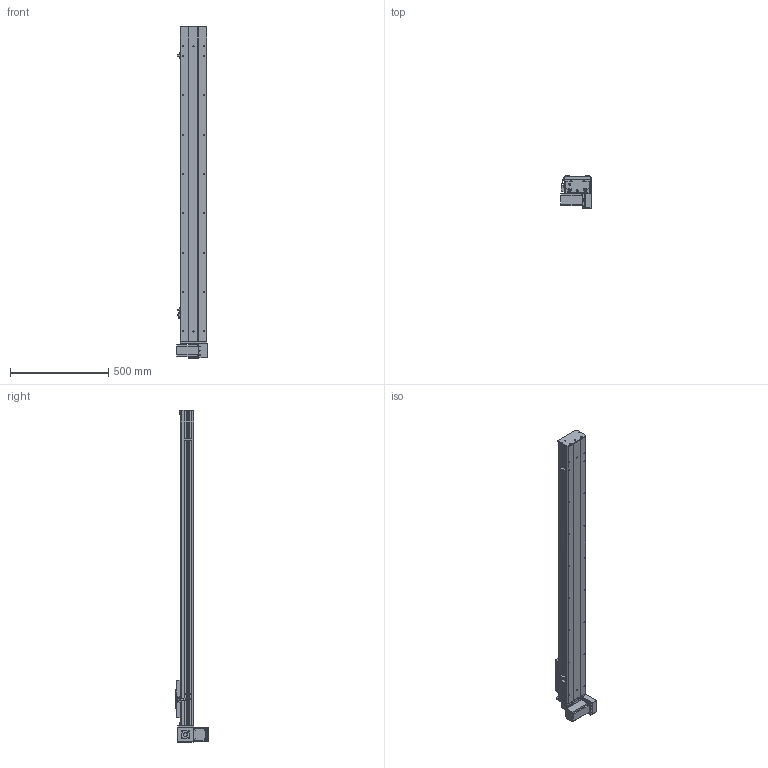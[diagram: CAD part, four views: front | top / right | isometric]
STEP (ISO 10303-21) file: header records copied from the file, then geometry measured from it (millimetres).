
FILE_DESCRIPTION (( 'STEP AP203' ), '1' );
FILE_NAME ('Y135CB-D90-S1300-BM-P400W.STEP', '2020-02-19T01:25:55', ( '微软用户' ), ( '微软中国' ), 'SwSTEP 2.0', 'SolidWorks 2017', '' );
FILE_SCHEMA (( 'CONFIG_CONTROL_DESIGN' ));
Length unit declared in the file: millimetre
Products named in the file (18): 0B-埴倛裔啣; Y135CB-耜裔; 5C--俋欶; 0B-源倛裔啣; C-雄赽釱--; 0B-萇儂楊擘啣; Y10B--々湍喘謫眊--666; san松下电机400不带刹车----; 00B-俋欶BM--; 5CB --掛极耜裔啣-; Y10B-耜蚾蟀諉啣----; C-詩湍揤踡え-陔; Y135CB-D90-S1300-BM-P400W; 135CB--詩湍-CE; 135CB---遴掛极.-; Y100-135俋离換覜ん--; 35CB---喘謫眊楊擘啣; Y135C-陔俋离換覜結え-
Assembly tree (21 placements, depth 2):
  Y135CB-D90-S1300-BM-P400W
    Y135CB-耜裔
    135CB---遴掛极.-
    35CB---喘謫眊楊擘啣
    0B-埴倛裔啣
    0B-源倛裔啣
    0B-萇儂楊擘啣
    san松下电机400不带刹车----
    5CB --掛极耜裔啣-  x2
    C-詩湍揤踡え-陔  x2
    135CB--詩湍-CE
    Y100-135俋离換覜ん--  x3
    Y135C-陔俋离換覜結え-
    5C--俋欶
    C-雄赽釱--
    Y10B--々湍喘謫眊--666
    00B-俋欶BM--
    Y10B-耜蚾蟀諉啣----
Bounding box: 157 x 163.3 x 1688 mm (x, y, z)
Volume: 5165412.2 mm3; surface area: 2029028.5 mm2
Topology: 21 solids, 21 shells, 953 faces, 2563 edges, 1698 vertices
Faces by surface type: cylinder 481, plane 456, cone 16
Entity records: 29753 total; most frequent: DIRECTION 4943, CARTESIAN_POINT 4900, ORIENTED_EDGE 4602, EDGE_CURVE 2301, AXIS2_PLACEMENT_3D 1805, VERTEX_POINT 1526, LINE 1333, VECTOR 1333
